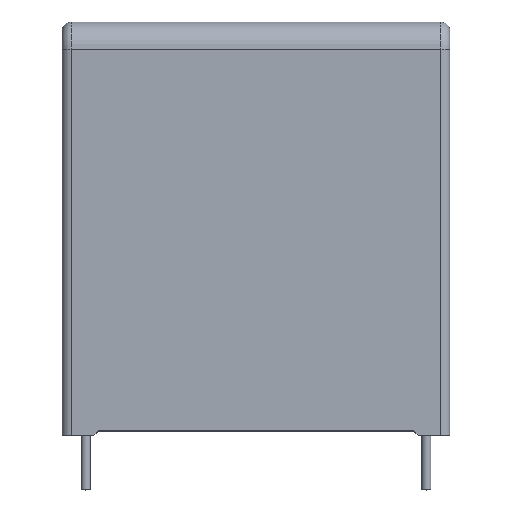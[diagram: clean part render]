
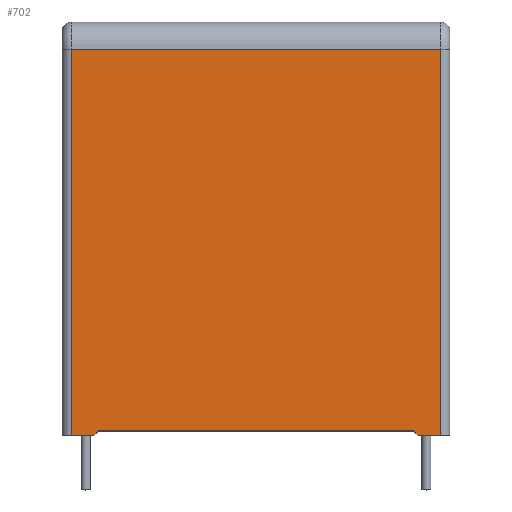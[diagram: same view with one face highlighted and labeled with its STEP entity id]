
A CAD part, top view. The second image highlights one B-rep face of the part: STEP entity #702.
In plain terms, the highlighted planar face has unit normal (0, 0, 1).
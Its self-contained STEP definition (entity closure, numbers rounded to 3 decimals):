
#7 = LINE ( 'NONE', #2865, #4189 ) ;
#65 = DIRECTION ( 'NONE',  ( -0.707, 0.707, 0. ) ) ;
#84 = VECTOR ( 'NONE', #65, 1000. ) ;
#93 = LINE ( 'NONE', #2089, #84 ) ;
#135 = PLANE ( 'NONE',  #2688 ) ;
#166 = DIRECTION ( 'NONE',  ( -1., 0., 0. ) ) ;
#286 = CARTESIAN_POINT ( 'NONE',  ( 20.35, 0., 15.35 ) ) ;
#319 = EDGE_CURVE ( 'NONE', #763, #2202, #93, .T. ) ;
#320 = VERTEX_POINT ( 'NONE', #1754 ) ;
#443 = CARTESIAN_POINT ( 'NONE',  ( -17.35, 0.5, 15.35 ) ) ;
#469 = EDGE_CURVE ( 'NONE', #763, #892, #4044, .T. ) ;
#489 = DIRECTION ( 'NONE',  ( 0., 0., -1. ) ) ;
#659 = LINE ( 'NONE', #3352, #1447 ) ;
#696 = VERTEX_POINT ( 'NONE', #4109 ) ;
#702 = ADVANCED_FACE ( 'NONE', ( #2984 ), #135, .F. ) ;
#759 = DIRECTION ( 'NONE',  ( 0., -1., 0. ) ) ;
#763 = VERTEX_POINT ( 'NONE', #2843 ) ;
#776 = EDGE_CURVE ( 'NONE', #2202, #3051, #2759, .T. ) ;
#820 = VECTOR ( 'NONE', #3622, 1000. ) ;
#892 = VERTEX_POINT ( 'NONE', #286 ) ;
#991 = VERTEX_POINT ( 'NONE', #1000 ) ;
#1000 = CARTESIAN_POINT ( 'NONE',  ( -17.85, 0., 15.35 ) ) ;
#1174 = EDGE_LOOP ( 'NONE', ( #2252, #2259, #2266, #2273, #2280, #2298, #2305, #2306 ) ) ;
#1447 = VECTOR ( 'NONE', #3708, 1000. ) ;
#1454 = VECTOR ( 'NONE', #3505, 1000. ) ;
#1478 = CARTESIAN_POINT ( 'NONE',  ( -17.85, 0., 15.35 ) ) ;
#1595 = CARTESIAN_POINT ( 'NONE',  ( -21.35, 0., 15.35 ) ) ;
#1754 = CARTESIAN_POINT ( 'NONE',  ( -20.35, 42.5, 15.35 ) ) ;
#1818 = LINE ( 'NONE', #1595, #820 ) ;
#1871 = VECTOR ( 'NONE', #759, 1000. ) ;
#2007 = CARTESIAN_POINT ( 'NONE',  ( 17.35, 0.5, 15.35 ) ) ;
#2089 = CARTESIAN_POINT ( 'NONE',  ( 17.35, 0.5, 15.35 ) ) ;
#2152 = CARTESIAN_POINT ( 'NONE',  ( -21.35, 45.5, 15.35 ) ) ;
#2202 = VERTEX_POINT ( 'NONE', #2007 ) ;
#2252 = ORIENTED_EDGE ( 'NONE', *, *, #776, .F. ) ;
#2259 = ORIENTED_EDGE ( 'NONE', *, *, #319, .F. ) ;
#2266 = ORIENTED_EDGE ( 'NONE', *, *, #469, .T. ) ;
#2273 = ORIENTED_EDGE ( 'NONE', *, *, #3992, .T. ) ;
#2280 = ORIENTED_EDGE ( 'NONE', *, *, #3791, .T. ) ;
#2298 = ORIENTED_EDGE ( 'NONE', *, *, #3570, .T. ) ;
#2305 = ORIENTED_EDGE ( 'NONE', *, *, #3342, .T. ) ;
#2306 = ORIENTED_EDGE ( 'NONE', *, *, #3110, .F. ) ;
#2420 = CARTESIAN_POINT ( 'NONE',  ( -20.35, 45.5, 15.35 ) ) ;
#2521 = DIRECTION ( 'NONE',  ( 1., 0., 0. ) ) ;
#2660 = VECTOR ( 'NONE', #166, 1000. ) ;
#2688 = AXIS2_PLACEMENT_3D ( 'NONE', #2152, #489, #2826 ) ;
#2746 = LINE ( 'NONE', #2420, #1871 ) ;
#2759 = LINE ( 'NONE', #3882, #2660 ) ;
#2826 = DIRECTION ( 'NONE',  ( -1., 0., 0. ) ) ;
#2843 = CARTESIAN_POINT ( 'NONE',  ( 17.85, 0., 15.35 ) ) ;
#2865 = CARTESIAN_POINT ( 'NONE',  ( 20.35, 45.5, 15.35 ) ) ;
#2984 = FACE_OUTER_BOUND ( 'NONE', #1174, .T. ) ;
#3051 = VERTEX_POINT ( 'NONE', #443 ) ;
#3110 = EDGE_CURVE ( 'NONE', #3051, #991, #3241, .T. ) ;
#3212 = DIRECTION ( 'NONE',  ( 0., 1., 0. ) ) ;
#3241 = LINE ( 'NONE', #1478, #1454 ) ;
#3342 = EDGE_CURVE ( 'NONE', #696, #991, #1818, .T. ) ;
#3352 = CARTESIAN_POINT ( 'NONE',  ( -21.35, 42.5, 15.35 ) ) ;
#3455 = CARTESIAN_POINT ( 'NONE',  ( 20.35, 42.5, 15.35 ) ) ;
#3505 = DIRECTION ( 'NONE',  ( -0.707, -0.707, 0. ) ) ;
#3570 = EDGE_CURVE ( 'NONE', #320, #696, #2746, .T. ) ;
#3582 = VERTEX_POINT ( 'NONE', #3455 ) ;
#3622 = DIRECTION ( 'NONE',  ( 1., 0., 0. ) ) ;
#3708 = DIRECTION ( 'NONE',  ( -1., 0., 0. ) ) ;
#3791 = EDGE_CURVE ( 'NONE', #3582, #320, #659, .T. ) ;
#3882 = CARTESIAN_POINT ( 'NONE',  ( -17.35, 0.5, 15.35 ) ) ;
#3950 = CARTESIAN_POINT ( 'NONE',  ( -21.35, 0., 15.35 ) ) ;
#3974 = VECTOR ( 'NONE', #2521, 1000. ) ;
#3992 = EDGE_CURVE ( 'NONE', #892, #3582, #7, .T. ) ;
#4044 = LINE ( 'NONE', #3950, #3974 ) ;
#4109 = CARTESIAN_POINT ( 'NONE',  ( -20.35, 0., 15.35 ) ) ;
#4189 = VECTOR ( 'NONE', #3212, 1000. ) ;
